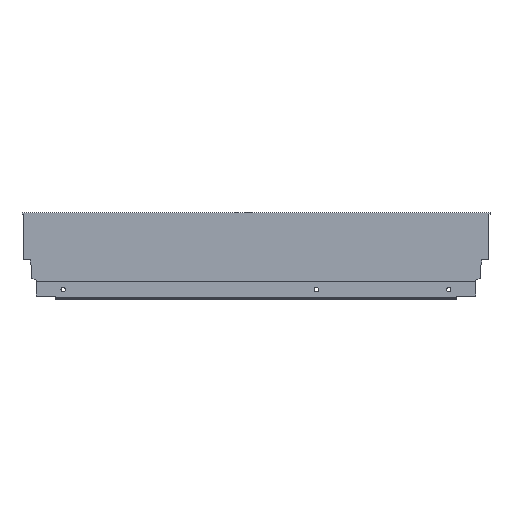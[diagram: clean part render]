
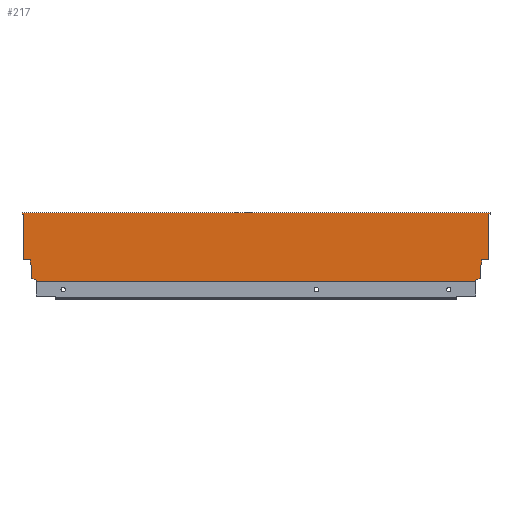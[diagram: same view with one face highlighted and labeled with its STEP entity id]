
A CAD part, top view. The second image highlights one B-rep face of the part: STEP entity #217.
In plain terms, the highlighted planar face has unit normal (0, 0, 1).
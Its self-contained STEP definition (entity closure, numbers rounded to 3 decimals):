
#1 = VERTEX_POINT ( 'NONE', #3 ) ;
#2 = VERTEX_POINT ( 'NONE', #16 ) ;
#3 = CARTESIAN_POINT ( 'NONE',  ( -464., 68., 7.5 ) ) ;
#4 = CARTESIAN_POINT ( 'NONE',  ( -454.1, 2.64, 7.5 ) ) ;
#5 = VERTEX_POINT ( 'NONE', #6 ) ;
#6 = CARTESIAN_POINT ( 'NONE',  ( -449.996, 0., 7.5 ) ) ;
#8 = VERTEX_POINT ( 'NONE', #4 ) ;
#16 = CARTESIAN_POINT ( 'NONE',  ( 0., 66.5, 7.5 ) ) ;
#33 = VERTEX_POINT ( 'NONE', #706 ) ;
#34 = VERTEX_POINT ( 'NONE', #707 ) ;
#35 = VERTEX_POINT ( 'NONE', #708 ) ;
#36 = VERTEX_POINT ( 'NONE', #709 ) ;
#41 = VERTEX_POINT ( 'NONE', #714 ) ;
#43 = VERTEX_POINT ( 'NONE', #716 ) ;
#44 = VERTEX_POINT ( 'NONE', #717 ) ;
#47 = VERTEX_POINT ( 'NONE', #720 ) ;
#49 = VERTEX_POINT ( 'NONE', #722 ) ;
#50 = VERTEX_POINT ( 'NONE', #723 ) ;
#53 = VERTEX_POINT ( 'NONE', #726 ) ;
#55 = VERTEX_POINT ( 'NONE', #728 ) ;
#58 = VERTEX_POINT ( 'NONE', #731 ) ;
#61 = VERTEX_POINT ( 'NONE', #734 ) ;
#79 = EDGE_CURVE ( 'NONE', #2, #36, #1462, .T. ) ;
#97 = EDGE_CURVE ( 'NONE', #34, #55, #254, .T. ) ;
#101 = EDGE_CURVE ( 'NONE', #47, #1, #251, .T. ) ;
#103 = EDGE_CURVE ( 'NONE', #35, #53, #266, .T. ) ;
#104 = EDGE_CURVE ( 'NONE', #5, #61, #269, .T. ) ;
#105 = EDGE_CURVE ( 'NONE', #44, #8, #273, .T. ) ;
#106 = EDGE_CURVE ( 'NONE', #47, #35, #268, .T. ) ;
#107 = EDGE_CURVE ( 'NONE', #43, #41, #277, .T. ) ;
#108 = EDGE_CURVE ( 'NONE', #55, #53, #267, .T. ) ;
#109 = EDGE_CURVE ( 'NONE', #49, #43, #272, .T. ) ;
#110 = EDGE_CURVE ( 'NONE', #1, #58, #276, .T. ) ;
#111 = EDGE_CURVE ( 'NONE', #36, #49, #280, .T. ) ;
#112 = EDGE_CURVE ( 'NONE', #8, #34, #282, .T. ) ;
#113 = EDGE_CURVE ( 'NONE', #33, #2, #284, .T. ) ;
#114 = EDGE_CURVE ( 'NONE', #5, #44, #291, .T. ) ;
#115 = EDGE_CURVE ( 'NONE', #58, #33, #293, .T. ) ;
#116 = EDGE_CURVE ( 'NONE', #50, #61, #286, .T. ) ;
#118 = EDGE_CURVE ( 'NONE', #41, #50, #299, .T. ) ;
#217 = ADVANCED_FACE ( 'NONE', ( #455 ), #1122, .T. ) ;
#251 = LINE ( 'NONE', #808, #265 ) ;
#254 = LINE ( 'NONE', #804, #256 ) ;
#256 = VECTOR ( 'NONE', #805, 1000. ) ;
#262 = VECTOR ( 'NONE', #818, 1000. ) ;
#265 = VECTOR ( 'NONE', #813, 1000. ) ;
#266 = LINE ( 'NONE', #817, #262 ) ;
#267 = LINE ( 'NONE', #823, #279 ) ;
#268 = LINE ( 'NONE', #819, #275 ) ;
#269 = LINE ( 'NONE', #812, #271 ) ;
#271 = VECTOR ( 'NONE', #820, 1000. ) ;
#272 = LINE ( 'NONE', #827, #281 ) ;
#273 = LINE ( 'NONE', #821, #274 ) ;
#274 = VECTOR ( 'NONE', #822, 1000. ) ;
#275 = VECTOR ( 'NONE', #824, 1000. ) ;
#276 = LINE ( 'NONE', #829, #283 ) ;
#277 = LINE ( 'NONE', #825, #278 ) ;
#278 = VECTOR ( 'NONE', #826, 1000. ) ;
#279 = VECTOR ( 'NONE', #828, 1000. ) ;
#280 = LINE ( 'NONE', #831, #285 ) ;
#281 = VECTOR ( 'NONE', #830, 1000. ) ;
#282 = LINE ( 'NONE', #833, #287 ) ;
#283 = VECTOR ( 'NONE', #832, 1000. ) ;
#284 = LINE ( 'NONE', #835, #289 ) ;
#285 = VECTOR ( 'NONE', #834, 1000. ) ;
#286 = LINE ( 'NONE', #837, #295 ) ;
#287 = VECTOR ( 'NONE', #836, 1000. ) ;
#289 = VECTOR ( 'NONE', #838, 1000. ) ;
#291 = LINE ( 'NONE', #839, #292 ) ;
#292 = VECTOR ( 'NONE', #840, 1000. ) ;
#293 = LINE ( 'NONE', #841, #294 ) ;
#294 = VECTOR ( 'NONE', #842, 1000. ) ;
#295 = VECTOR ( 'NONE', #844, 1000. ) ;
#299 = LINE ( 'NONE', #847, #300 ) ;
#300 = VECTOR ( 'NONE', #848, 1000. ) ;
#455 = FACE_OUTER_BOUND ( 'NONE', #1614, .T. ) ;
#632 = AXIS2_PLACEMENT_3D ( 'NONE', #1125, #1131, #1132 ) ;
#706 = CARTESIAN_POINT ( 'NONE',  ( 1., 66.5, 7.5 ) ) ;
#707 = CARTESIAN_POINT ( 'NONE',  ( -454.1, 10.765, 7.5 ) ) ;
#708 = CARTESIAN_POINT ( 'NONE',  ( -463., 66.5, 7.5 ) ) ;
#709 = CARTESIAN_POINT ( 'NONE',  ( 0., 21.2, 7.5 ) ) ;
#714 = CARTESIAN_POINT ( 'NONE',  ( -8.9, 2.64, 7.5 ) ) ;
#716 = CARTESIAN_POINT ( 'NONE',  ( -8.9, 10.765, 7.5 ) ) ;
#717 = CARTESIAN_POINT ( 'NONE',  ( -449.996, 1.146, 7.5 ) ) ;
#720 = CARTESIAN_POINT ( 'NONE',  ( -464., 66.5, 7.5 ) ) ;
#722 = CARTESIAN_POINT ( 'NONE',  ( -7.06, 21.2, 7.5 ) ) ;
#723 = CARTESIAN_POINT ( 'NONE',  ( -13.004, 1.146, 7.5 ) ) ;
#726 = CARTESIAN_POINT ( 'NONE',  ( -463., 21.2, 7.5 ) ) ;
#728 = CARTESIAN_POINT ( 'NONE',  ( -455.94, 21.2, 7.5 ) ) ;
#731 = CARTESIAN_POINT ( 'NONE',  ( 1., 68., 7.5 ) ) ;
#734 = CARTESIAN_POINT ( 'NONE',  ( -13.004, 0., 7.5 ) ) ;
#765 = CARTESIAN_POINT ( 'NONE',  ( 0., 0., 7.5 ) ) ;
#766 = DIRECTION ( 'NONE',  ( 0., -1., 0. ) ) ;
#804 = CARTESIAN_POINT ( 'NONE',  ( -455.94, 21.2, 7.5 ) ) ;
#805 = DIRECTION ( 'NONE',  ( -0.174, 0.985, 0. ) ) ;
#808 = CARTESIAN_POINT ( 'NONE',  ( -464., 66.5, 7.5 ) ) ;
#812 = CARTESIAN_POINT ( 'NONE',  ( -463., 0., 7.5 ) ) ;
#813 = DIRECTION ( 'NONE',  ( 0., 1., 0. ) ) ;
#817 = CARTESIAN_POINT ( 'NONE',  ( -463., 0., 7.5 ) ) ;
#818 = DIRECTION ( 'NONE',  ( 0., -1., 0. ) ) ;
#819 = CARTESIAN_POINT ( 'NONE',  ( -464., 66.5, 7.5 ) ) ;
#820 = DIRECTION ( 'NONE',  ( 1., 0., 0. ) ) ;
#821 = CARTESIAN_POINT ( 'NONE',  ( -454.1, 2.64, 7.5 ) ) ;
#822 = DIRECTION ( 'NONE',  ( -0.94, 0.342, 0. ) ) ;
#823 = CARTESIAN_POINT ( 'NONE',  ( -468., 21.2, 7.5 ) ) ;
#824 = DIRECTION ( 'NONE',  ( 1., 0., 0. ) ) ;
#825 = CARTESIAN_POINT ( 'NONE',  ( -8.9, 10.765, 7.5 ) ) ;
#826 = DIRECTION ( 'NONE',  ( 0., -1., 0. ) ) ;
#827 = CARTESIAN_POINT ( 'NONE',  ( -7.06, 21.2, 7.5 ) ) ;
#828 = DIRECTION ( 'NONE',  ( -1., 0., 0. ) ) ;
#829 = CARTESIAN_POINT ( 'NONE',  ( -463., 68., 7.5 ) ) ;
#830 = DIRECTION ( 'NONE',  ( -0.174, -0.985, 0. ) ) ;
#831 = CARTESIAN_POINT ( 'NONE',  ( 0., 21.2, 7.5 ) ) ;
#832 = DIRECTION ( 'NONE',  ( 1., 0., 0. ) ) ;
#833 = CARTESIAN_POINT ( 'NONE',  ( -454.1, 10.765, 7.5 ) ) ;
#834 = DIRECTION ( 'NONE',  ( -1., 0., 0. ) ) ;
#835 = CARTESIAN_POINT ( 'NONE',  ( 1., 66.5, 7.5 ) ) ;
#836 = DIRECTION ( 'NONE',  ( 0., 1., 0. ) ) ;
#837 = CARTESIAN_POINT ( 'NONE',  ( -13.004, 1.146, 7.5 ) ) ;
#838 = DIRECTION ( 'NONE',  ( -1., 0., 0. ) ) ;
#839 = CARTESIAN_POINT ( 'NONE',  ( -449.996, 1.146, 7.5 ) ) ;
#840 = DIRECTION ( 'NONE',  ( 0., 1., 0. ) ) ;
#841 = CARTESIAN_POINT ( 'NONE',  ( 1., 68., 7.5 ) ) ;
#842 = DIRECTION ( 'NONE',  ( 0., -1., 0. ) ) ;
#844 = DIRECTION ( 'NONE',  ( 0., -1., 0. ) ) ;
#847 = CARTESIAN_POINT ( 'NONE',  ( -8.9, 2.64, 7.5 ) ) ;
#848 = DIRECTION ( 'NONE',  ( -0.94, -0.342, 0. ) ) ;
#1122 = PLANE ( 'NONE',  #632 ) ;
#1125 = CARTESIAN_POINT ( 'NONE',  ( -463., 0., 7.5 ) ) ;
#1131 = DIRECTION ( 'NONE',  ( 0., 0., 1. ) ) ;
#1132 = DIRECTION ( 'NONE',  ( 1., 0., 0. ) ) ;
#1299 = ORIENTED_EDGE ( 'NONE', *, *, #97, .F. ) ;
#1300 = ORIENTED_EDGE ( 'NONE', *, *, #108, .F. ) ;
#1301 = ORIENTED_EDGE ( 'NONE', *, *, #103, .T. ) ;
#1302 = ORIENTED_EDGE ( 'NONE', *, *, #106, .T. ) ;
#1303 = ORIENTED_EDGE ( 'NONE', *, *, #101, .F. ) ;
#1304 = ORIENTED_EDGE ( 'NONE', *, *, #110, .F. ) ;
#1309 = ORIENTED_EDGE ( 'NONE', *, *, #112, .F. ) ;
#1310 = ORIENTED_EDGE ( 'NONE', *, *, #105, .F. ) ;
#1311 = ORIENTED_EDGE ( 'NONE', *, *, #114, .F. ) ;
#1312 = ORIENTED_EDGE ( 'NONE', *, *, #104, .T. ) ;
#1342 = ORIENTED_EDGE ( 'NONE', *, *, #79, .F. ) ;
#1343 = ORIENTED_EDGE ( 'NONE', *, *, #113, .F. ) ;
#1344 = ORIENTED_EDGE ( 'NONE', *, *, #115, .F. ) ;
#1346 = ORIENTED_EDGE ( 'NONE', *, *, #111, .F. ) ;
#1347 = ORIENTED_EDGE ( 'NONE', *, *, #116, .F. ) ;
#1348 = ORIENTED_EDGE ( 'NONE', *, *, #118, .F. ) ;
#1350 = ORIENTED_EDGE ( 'NONE', *, *, #107, .F. ) ;
#1352 = ORIENTED_EDGE ( 'NONE', *, *, #109, .F. ) ;
#1462 = LINE ( 'NONE', #765, #1463 ) ;
#1463 = VECTOR ( 'NONE', #766, 1000. ) ;
#1614 = EDGE_LOOP ( 'NONE', ( #1304, #1303, #1302, #1301, #1300, #1299, #1309, #1310, #1311, #1312, #1347, #1348, #1350, #1352, #1346, #1342, #1343, #1344 ) ) ;
